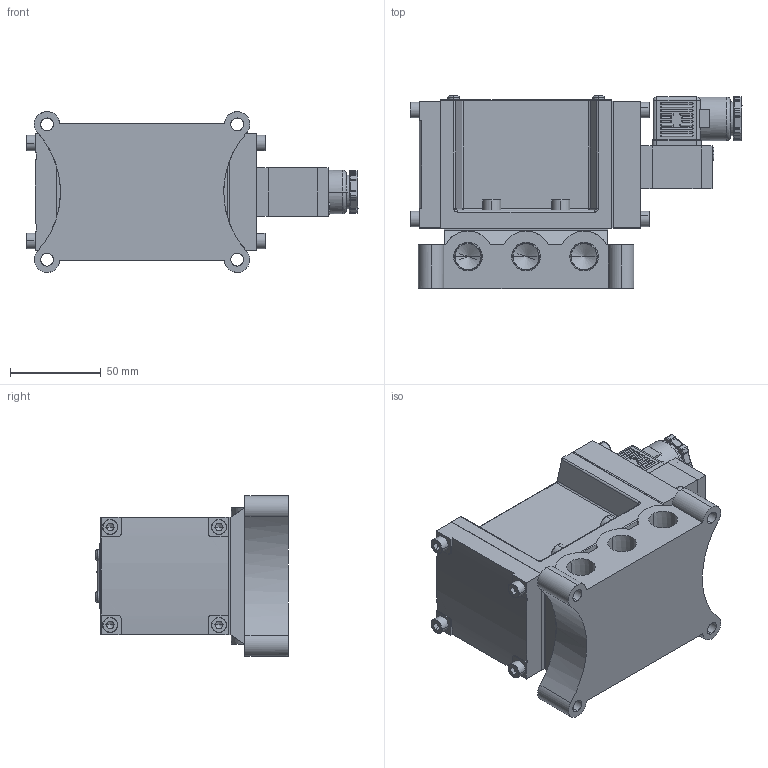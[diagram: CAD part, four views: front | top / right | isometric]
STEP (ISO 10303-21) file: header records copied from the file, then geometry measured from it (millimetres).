
FILE_DESCRIPTION (( 'STEP AP203' ), '1' );
FILE_NAME ('PMS2410#-03-#C#.STEP', '2016-03-09T08:35:45', ( 'Sam Lin' ), ( '' ), 'SwSTEP 2.0', 'SolidWorks 2013', '' );
FILE_SCHEMA (( 'CONFIG_CONTROL_DESIGN' ));
Length unit declared in the file: metre
Products named in the file (18): ISO 4762 M5 x 20; PM06-C1_1; ISO 4762 M6 x 20; PMS2410-2; PMS2306-6(C); PM06-C4_1; PMS2410#-03-#C#; PMS2410-3; PM06-C5_1; PM10-MARK-2410; PM06-C3-M4_1; PMS2410-1; PMS2410-4; PMS2410-8; PMS2410-5; PMS2410-6; PM06-C6-M3_1; PMS2410-7
Assembly tree (30 placements, depth 2):
  PMS2410#-03-#C#
    PMS2410-1
    PMS2410-2
    PMS2410-3
    PMS2410-4
    PMS2410-5
    ISO 4762 M5 x 20  x8
    PM06-C3-M4_1  x3
    ISO 4762 M6 x 20  x4
    PM10-MARK-2410
    PMS2410-6
    PMS2410-7
    PMS2410-8
    PM06-C1_1
    PM06-C4_1
    PM06-C6-M3_1  x2
    PM06-C5_1
    PMS2306-6(C)
Bounding box: 183 x 106.35 x 88.61 mm (x, y, z)
Volume: 709094.1 mm3; surface area: 152621.3 mm2
Topology: 36 solids, 36 shells, 1171 faces, 2895 edges, 1704 vertices
Faces by surface type: plane 500, cylinder 322, bspline 238, cone 111
Entity records: 34468 total; most frequent: CARTESIAN_POINT 14689, ORIENTED_EDGE 3758, DIRECTION 3408, EDGE_CURVE 1879, AXIS2_PLACEMENT_3D 1250, VERTEX_POINT 1187, EDGE_LOOP 914, LINE 908
